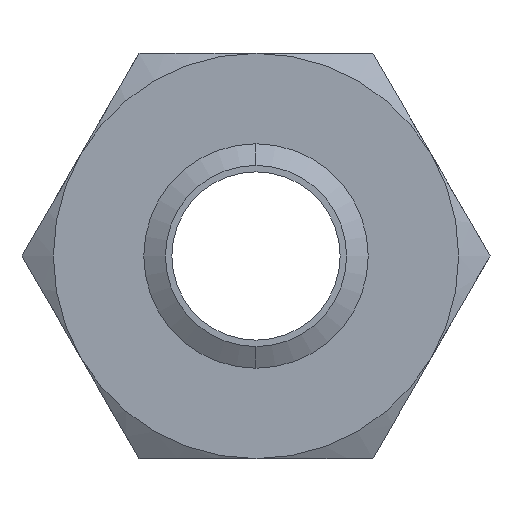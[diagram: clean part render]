
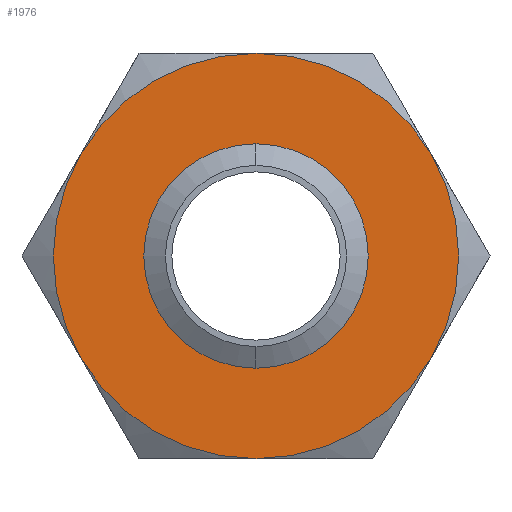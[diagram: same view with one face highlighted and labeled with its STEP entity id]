
A CAD part, front view. The second image highlights one B-rep face of the part: STEP entity #1976.
In plain terms, the highlighted planar face has unit normal (0, -1, 0).
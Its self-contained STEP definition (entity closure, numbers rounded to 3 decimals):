
#15 = VERTEX_POINT ( 'NONE', #355 ) ;
#355 = CARTESIAN_POINT ( 'NONE',  ( -28.146, 0., -16.25 ) ) ;
#982 = DIRECTION ( 'NONE',  ( 0., 0., 1. ) ) ;
#983 = DIRECTION ( 'NONE',  ( 0., 1., 0. ) ) ;
#984 = CARTESIAN_POINT ( 'NONE',  ( 0., 0., 0. ) ) ;
#985 = AXIS2_PLACEMENT_3D ( 'NONE', #984, #983, #982 ) ;
#986 = CIRCLE ( 'NONE', #985, 32.5 ) ;
#995 = CARTESIAN_POINT ( 'NONE',  ( 0., 0., -32.5 ) ) ;
#996 = DIRECTION ( 'NONE',  ( 0., 0., 1. ) ) ;
#997 = DIRECTION ( 'NONE',  ( 0., 1., 0. ) ) ;
#998 = CARTESIAN_POINT ( 'NONE',  ( 0., 0., 0. ) ) ;
#999 = AXIS2_PLACEMENT_3D ( 'NONE', #998, #997, #996 ) ;
#1000 = CIRCLE ( 'NONE', #999, 32.5 ) ;
#1077 = DIRECTION ( 'NONE',  ( 0., 0., 1. ) ) ;
#1078 = DIRECTION ( 'NONE',  ( 0., 1., 0. ) ) ;
#1079 = CARTESIAN_POINT ( 'NONE',  ( 0., 0., 0. ) ) ;
#1080 = AXIS2_PLACEMENT_3D ( 'NONE', #1079, #1078, #1077 ) ;
#1081 = CIRCLE ( 'NONE', #1080, 32.5 ) ;
#1082 = DIRECTION ( 'NONE',  ( 0., 0., -1. ) ) ;
#1083 = DIRECTION ( 'NONE',  ( 0., -1., 0. ) ) ;
#1084 = CARTESIAN_POINT ( 'NONE',  ( 0., 0., 0. ) ) ;
#1085 = AXIS2_PLACEMENT_3D ( 'NONE', #1084, #1083, #1082 ) ;
#1086 = CIRCLE ( 'NONE', #1085, 14.536 ) ;
#1090 = CARTESIAN_POINT ( 'NONE',  ( 28.146, 0., -16.25 ) ) ;
#1345 = DIRECTION ( 'NONE',  ( 0., 0., 1. ) ) ;
#1346 = DIRECTION ( 'NONE',  ( 0., 1., 0. ) ) ;
#1347 = CARTESIAN_POINT ( 'NONE',  ( 0., 0., 0. ) ) ;
#1348 = AXIS2_PLACEMENT_3D ( 'NONE', #1347, #1346, #1345 ) ;
#1349 = CIRCLE ( 'NONE', #1348, 32.5 ) ;
#1350 = DIRECTION ( 'NONE',  ( 0., 0., 1. ) ) ;
#1351 = DIRECTION ( 'NONE',  ( 0., 1., 0. ) ) ;
#1352 = CARTESIAN_POINT ( 'NONE',  ( 0., 0., 0. ) ) ;
#1353 = AXIS2_PLACEMENT_3D ( 'NONE', #1352, #1351, #1350 ) ;
#1354 = CIRCLE ( 'NONE', #1353, 32.5 ) ;
#1367 = DIRECTION ( 'NONE',  ( 0., 0., 1. ) ) ;
#1368 = DIRECTION ( 'NONE',  ( 0., 1., 0. ) ) ;
#1369 = CARTESIAN_POINT ( 'NONE',  ( 0., 0., 0. ) ) ;
#1370 = AXIS2_PLACEMENT_3D ( 'NONE', #1369, #1368, #1367 ) ;
#1371 = DIRECTION ( 'NONE',  ( 0., 0., 1. ) ) ;
#1372 = DIRECTION ( 'NONE',  ( 0., 1., 0. ) ) ;
#1373 = CIRCLE ( 'NONE', #1370, 32.5 ) ;
#1374 = CARTESIAN_POINT ( 'NONE',  ( 18.764, 0., -32.5 ) ) ;
#1375 = AXIS2_PLACEMENT_3D ( 'NONE', #1374, #1372, #1371 ) ;
#1376 = PLANE ( 'NONE',  #1375 ) ;
#1377 = FACE_BOUND ( 'NONE', #1819, .T. ) ;
#1378 = FACE_OUTER_BOUND ( 'NONE', #1983, .T. ) ;
#1408 = CARTESIAN_POINT ( 'NONE',  ( 28.146, 0., 16.25 ) ) ;
#1420 = CARTESIAN_POINT ( 'NONE',  ( -28.146, 0., 16.25 ) ) ;
#1422 = CARTESIAN_POINT ( 'NONE',  ( 0., 0., 32.5 ) ) ;
#1433 = CARTESIAN_POINT ( 'NONE',  ( 0., 0., 14.536 ) ) ;
#1434 = CARTESIAN_POINT ( 'NONE',  ( 0., 0., -14.536 ) ) ;
#1573 = DIRECTION ( 'NONE',  ( 0., 0., -1. ) ) ;
#1574 = DIRECTION ( 'NONE',  ( 0., -1., 0. ) ) ;
#1575 = CARTESIAN_POINT ( 'NONE',  ( 0., 0., 0. ) ) ;
#1576 = AXIS2_PLACEMENT_3D ( 'NONE', #1575, #1574, #1573 ) ;
#1577 = CIRCLE ( 'NONE', #1576, 14.536 ) ;
#1764 = ORIENTED_EDGE ( 'NONE', *, *, #1768, .F. ) ;
#1768 = EDGE_CURVE ( 'NONE', #1769, #15, #1000, .T. ) ;
#1769 = VERTEX_POINT ( 'NONE', #995 ) ;
#1771 = ORIENTED_EDGE ( 'NONE', *, *, #1776, .F. ) ;
#1776 = EDGE_CURVE ( 'NONE', #1992, #1824, #986, .T. ) ;
#1819 = EDGE_LOOP ( 'NONE', ( #1822, #1821 ) ) ;
#1821 = ORIENTED_EDGE ( 'NONE', *, *, #1825, .F. ) ;
#1822 = ORIENTED_EDGE ( 'NONE', *, *, #2069, .F. ) ;
#1823 = ORIENTED_EDGE ( 'NONE', *, *, #1826, .F. ) ;
#1824 = VERTEX_POINT ( 'NONE', #1090 ) ;
#1825 = EDGE_CURVE ( 'NONE', #2019, #2018, #1086, .T. ) ;
#1826 = EDGE_CURVE ( 'NONE', #1824, #1769, #1081, .T. ) ;
#1957 = EDGE_CURVE ( 'NONE', #1982, #1980, #1354, .T. ) ;
#1958 = ORIENTED_EDGE ( 'NONE', *, *, #1977, .F. ) ;
#1960 = EDGE_CURVE ( 'NONE', #15, #1982, #1349, .T. ) ;
#1961 = ORIENTED_EDGE ( 'NONE', *, *, #1960, .F. ) ;
#1966 = ORIENTED_EDGE ( 'NONE', *, *, #1957, .F. ) ;
#1976 = ADVANCED_FACE ( 'NONE', ( #1378, #1377 ), #1376, .F. ) ;
#1977 = EDGE_CURVE ( 'NONE', #1980, #1992, #1373, .T. ) ;
#1980 = VERTEX_POINT ( 'NONE', #1422 ) ;
#1982 = VERTEX_POINT ( 'NONE', #1420 ) ;
#1983 = EDGE_LOOP ( 'NONE', ( #1958, #1966, #1961, #1764, #1823, #1771 ) ) ;
#1992 = VERTEX_POINT ( 'NONE', #1408 ) ;
#2018 = VERTEX_POINT ( 'NONE', #1434 ) ;
#2019 = VERTEX_POINT ( 'NONE', #1433 ) ;
#2069 = EDGE_CURVE ( 'NONE', #2018, #2019, #1577, .T. ) ;
